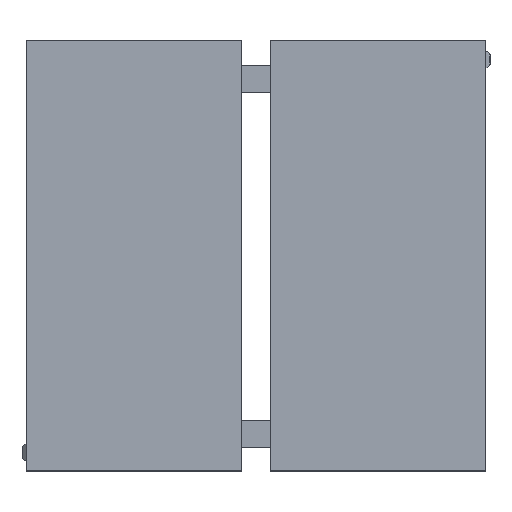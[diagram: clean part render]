
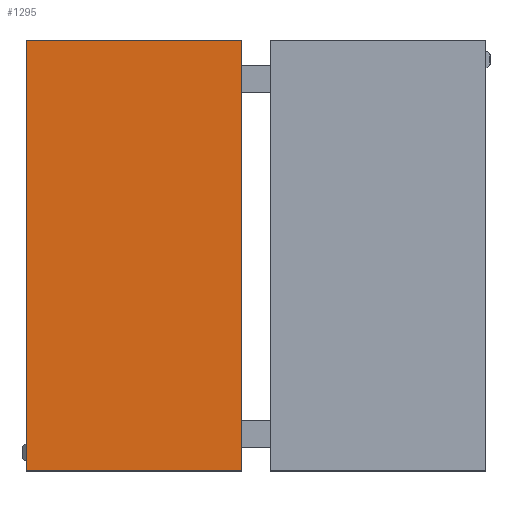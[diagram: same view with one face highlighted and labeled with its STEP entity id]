
A CAD part, top view. The second image highlights one B-rep face of the part: STEP entity #1295.
In plain terms, the highlighted planar face has unit normal (0, 0, 1).
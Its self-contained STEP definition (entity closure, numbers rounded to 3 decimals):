
#1295 = ADVANCED_FACE( '', ( #2810 ), #2811, .T. );
#2810 = FACE_OUTER_BOUND( '', #5450, .T. );
#2811 = PLANE( '', #5451 );
#5450 = EDGE_LOOP( '', ( #9906, #9907, #9908, #9909 ) );
#5451 = AXIS2_PLACEMENT_3D( '', #9910, #9911, #9912 );
#9906 = ORIENTED_EDGE( '', *, *, #16652, .F. );
#9907 = ORIENTED_EDGE( '', *, *, #16662, .F. );
#9908 = ORIENTED_EDGE( '', *, *, #16659, .F. );
#9909 = ORIENTED_EDGE( '', *, *, #16656, .F. );
#9910 = CARTESIAN_POINT( '', ( -223., -140., 645.5 ) );
#9911 = DIRECTION( '', ( 0., 0., 1. ) );
#9912 = DIRECTION( '', ( 1., 0., 0. ) );
#16652 = EDGE_CURVE( '', #19998, #19999, #20000, .T. );
#16656 = EDGE_CURVE( '', #19999, #20006, #20007, .T. );
#16659 = EDGE_CURVE( '', #20006, #20011, #20012, .T. );
#16662 = EDGE_CURVE( '', #20011, #19998, #20016, .T. );
#19998 = VERTEX_POINT( '', #25064 );
#19999 = VERTEX_POINT( '', #25065 );
#20000 = LINE( '', #25066, #25067 );
#20006 = VERTEX_POINT( '', #25076 );
#20007 = LINE( '', #25077, #25078 );
#20011 = VERTEX_POINT( '', #25084 );
#20012 = LINE( '', #25085, #25086 );
#20016 = LINE( '', #25092, #25093 );
#25064 = CARTESIAN_POINT( '', ( -223., 1460., 645.5 ) );
#25065 = CARTESIAN_POINT( '', ( 577., 1460., 645.5 ) );
#25066 = CARTESIAN_POINT( '', ( 577., 1460., 645.5 ) );
#25067 = VECTOR( '', #30976, 1. );
#25076 = CARTESIAN_POINT( '', ( 577., -140., 645.5 ) );
#25077 = CARTESIAN_POINT( '', ( 577., -140., 645.5 ) );
#25078 = VECTOR( '', #30980, 1. );
#25084 = CARTESIAN_POINT( '', ( -223., -140., 645.5 ) );
#25085 = CARTESIAN_POINT( '', ( -223., -140., 645.5 ) );
#25086 = VECTOR( '', #30983, 1. );
#25092 = CARTESIAN_POINT( '', ( -223., 1460., 645.5 ) );
#25093 = VECTOR( '', #30986, 1. );
#30976 = DIRECTION( '', ( 1., 0., 0. ) );
#30980 = DIRECTION( '', ( 0., -1., 0. ) );
#30983 = DIRECTION( '', ( -1., 0., 0. ) );
#30986 = DIRECTION( '', ( 0., 1., 0. ) );
